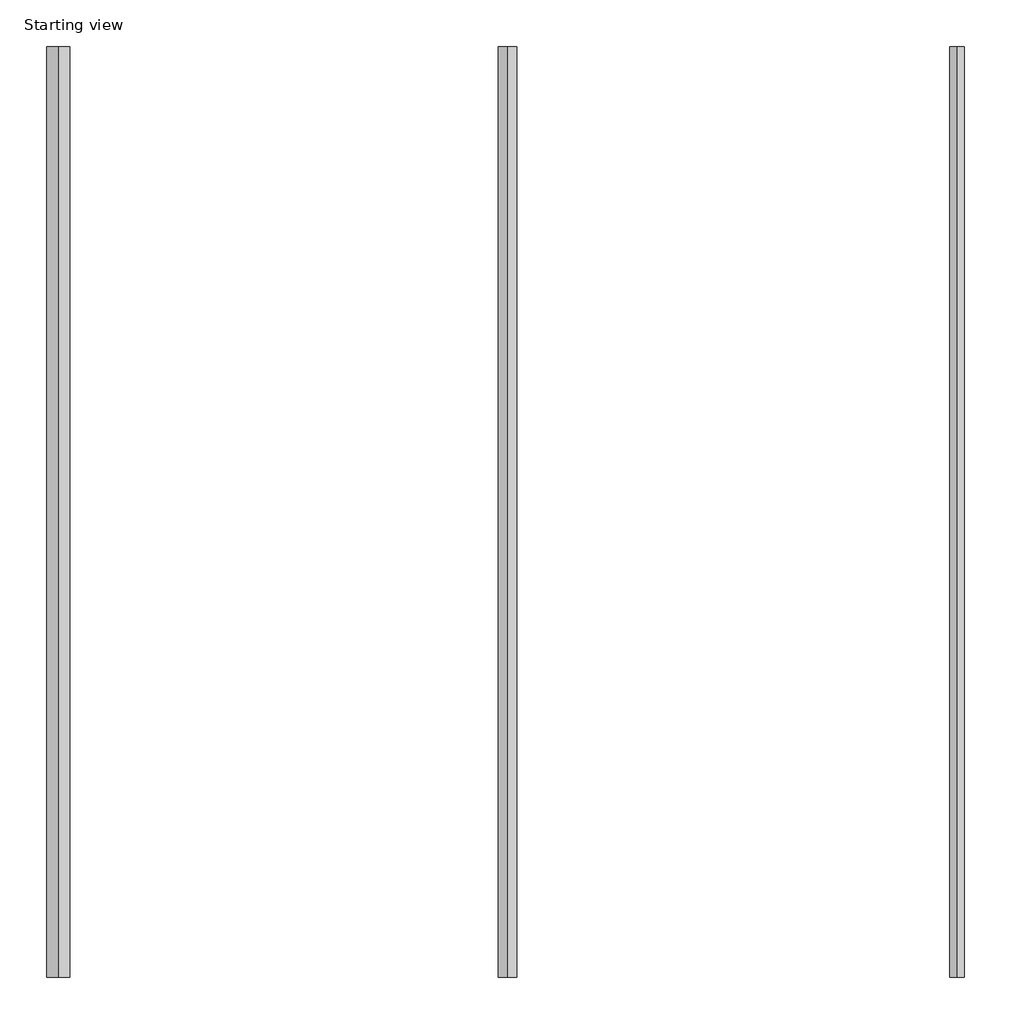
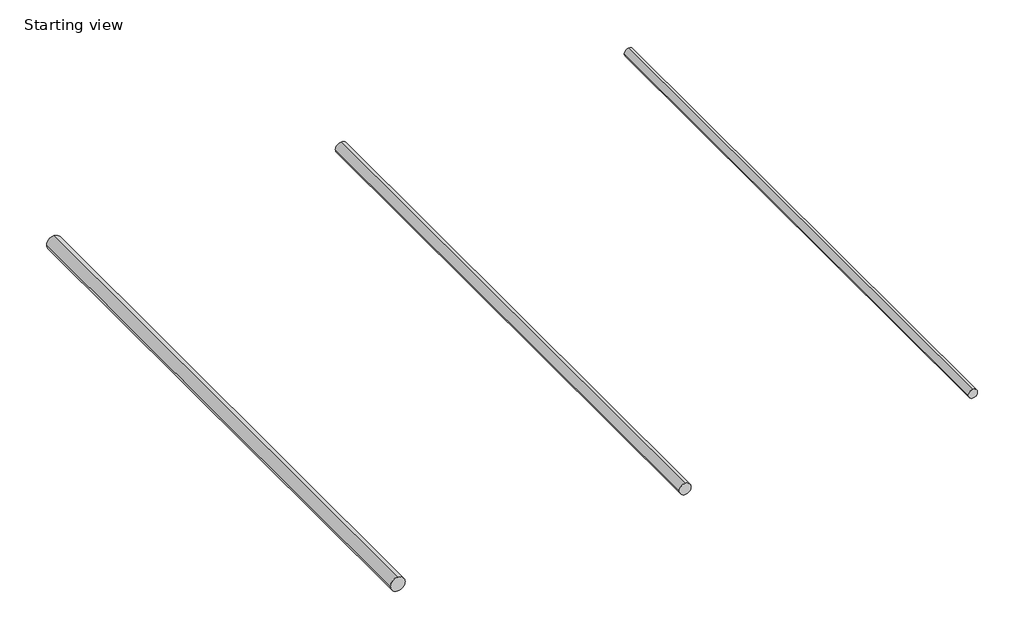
# One storey, incomplete: 3 pipe segments.
"""IFC4 building model written with IfcOpenShell, lengths in millimetres."""

import ifcopenshell
import ifcopenshell.guid

model = None  # the IFC model being written
_history = None  # IfcOwnerHistory: only IFC2X3 demands one
_inside = {}  # id of a spatial element -> (the spatial element, [elements in it])
_under = {}  # id of a project, library or spatial element -> (it, [spatial elements below it])
_declared = {}  # id of a project -> (the project, [libraries it declares])
_typed = {}  # id of a type object -> (the type object, [elements of that type])
_made_of = {}  # id of a material, layer set ... -> (it, [elements and type objects made of it])


def new_model(schema):
    """Start an empty IFC model of exactly this schema.

    Asked for "IFC4X3", IfcOpenShell would pick the latest addendum, in which some entities
    have other attributes; the version numbers below select the first issue.
    IFC2X3 requires an IfcOwnerHistory on every rooted entity: one is made here for all.
    """
    global model, _history
    if schema == "IFC4X3":
        model = ifcopenshell.file(schema_version=(4, 3, 0, 0))
    else:
        model = ifcopenshell.file(schema=schema)
    _inside.clear()
    _under.clear()
    _declared.clear()
    _typed.clear()
    _made_of.clear()
    _history = None
    if model.schema == "IFC2X3":
        org = make("IfcOrganization", Name="unknown")
        user = make(
            "IfcPersonAndOrganization",
            ThePerson=make("IfcPerson", FamilyName="unknown"),
            TheOrganization=org,
        )
        app = make(
            "IfcApplication",
            ApplicationDeveloper=org,
            Version="unknown",
            ApplicationFullName="unknown",
            ApplicationIdentifier="unknown",
        )
        _history = make(
            "IfcOwnerHistory",
            OwningUser=user,
            OwningApplication=app,
            ChangeAction="ADDED",
            CreationDate=0,
        )
    return model


def make(cls, **values):
    """One entity of the class cls with the attributes given. An attribute that is None is left unset."""
    return model.create_entity(
        cls, **{name: value for name, value in values.items() if value is not None}
    )


def rooted(cls, **values):
    """An entity with a GlobalId (a new one), such as an element, a storey or a relation."""
    return make(cls, GlobalId=ifcopenshell.guid.new(), OwnerHistory=_history, **values)


def si_unit(unit_type, name, prefix=None):
    """IfcSIUnit, for example si_unit("LENGTHUNIT", "METRE", prefix="MILLI")."""
    return make("IfcSIUnit", UnitType=unit_type, Prefix=prefix, Name=name)


def assignment(units):
    """IfcUnitAssignment: the units of a project."""
    return None if units is None else make("IfcUnitAssignment", Units=units)


def point(xyz):
    """IfcCartesianPoint."""
    return None if xyz is None else make("IfcCartesianPoint", Coordinates=xyz)


def direction(xyz):
    """IfcDirection."""
    return None if xyz is None else make("IfcDirection", DirectionRatios=xyz)


def frame(location, z_axis=None, x_axis=None):
    """IfcAxis2Placement3D, a coordinate frame: its origin and axes. An axis left out is left unset."""
    return make(
        "IfcAxis2Placement3D",
        Location=point(location),
        Axis=direction(z_axis),
        RefDirection=direction(x_axis),
    )


def frame_2d(location, x_axis=None):
    """IfcAxis2Placement2D, a coordinate frame in the plane: its origin and x axis."""
    return make(
        "IfcAxis2Placement2D", Location=point(location), RefDirection=direction(x_axis)
    )


def origin():
    """The frame at (0, 0, 0) with its axes left unset."""
    return frame((0.0, 0.0, 0.0))


def place(relative_to, where):
    """IfcLocalPlacement: puts the frame where relative to a parent placement (None: the world)."""
    return make(
        "IfcLocalPlacement", PlacementRelTo=relative_to, RelativePlacement=where
    )


def context(
    kind, dimensions, precision=None, world=None, true_north=None, identifier=None
):
    """IfcGeometricRepresentationContext, for example the 3D "Model" context."""
    return make(
        "IfcGeometricRepresentationContext",
        ContextIdentifier=identifier,
        ContextType=kind,
        CoordinateSpaceDimension=dimensions,
        Precision=precision,
        WorldCoordinateSystem=world,
        TrueNorth=true_north,
    )


def project(units=None, contexts=None):
    """IfcProject with its units and contexts."""
    return rooted(
        "IfcProject",
        Name="project",
        RepresentationContexts=contexts,
        UnitsInContext=assignment(units),
    )


def spatial(cls, under=None, at=None, **own):
    """A site, building, storey or space (cls), placed at a placement, below another one or the project."""
    s = rooted(cls, ObjectPlacement=at, **own)
    if under is not None:
        _under.setdefault(under.id(), (under, []))[1].append(s)
    return s


def circle_curve(where, radius):
    """IfcCircle in the frame where."""
    return make("IfcCircle", Position=where, Radius=radius)


def trimmed(basis, trim1, trim2, sense, master):
    """IfcTrimmedCurve: the piece of a basis curve between two trims."""
    return make(
        "IfcTrimmedCurve",
        BasisCurve=basis,
        Trim1=trim1,
        Trim2=trim2,
        SenseAgreement=sense,
        MasterRepresentation=master,
    )


def segment(curve, same_sense, transition):
    """IfcCompositeCurveSegment."""
    return make(
        "IfcCompositeCurveSegment",
        Transition=transition,
        SameSense=same_sense,
        ParentCurve=curve,
    )


def composite_curve(segments, self_intersect=None):
    """IfcCompositeCurve: segments joined end to end."""
    return make("IfcCompositeCurve", Segments=segments, SelfIntersect=self_intersect)


def outline(outer, holes=None, kind="AREA"):
    """IfcArbitraryClosedProfileDef: a profile drawn as a closed curve; with holes, ...WithVoids."""
    if holes is None:
        return make("IfcArbitraryClosedProfileDef", ProfileType=kind, OuterCurve=outer)
    return make(
        "IfcArbitraryProfileDefWithVoids",
        ProfileType=kind,
        OuterCurve=outer,
        InnerCurves=holes,
    )


def extrude(swept, where, along, depth):
    """IfcExtrudedAreaSolid: the profile swept, set in the frame where, extruded along a direction by depth."""
    return make(
        "IfcExtrudedAreaSolid",
        SweptArea=swept,
        Position=where,
        ExtrudedDirection=direction(along),
        Depth=depth,
    )


def shape(context_of_items, identifier, shape_type, items):
    """IfcShapeRepresentation: the items that make up one representation, for example the "Body"."""
    return make(
        "IfcShapeRepresentation",
        ContextOfItems=context_of_items,
        RepresentationIdentifier=identifier,
        RepresentationType=shape_type,
        Items=items,
    )


def made_of(thing, what):
    """Note that an element or type object is made of a material, layer set ...; save() writes the relation."""
    if what is not None:
        _made_of.setdefault(what.id(), (what, []))[1].append(thing)
    return thing


def element(
    cls,
    number,
    at=None,
    inside=None,
    cuts=None,
    type_object=None,
    material=None,
    context=None,
    identifier="Body",
    shape_type=None,
    held_by="IfcProductDefinitionShape",
    body=None,
    shapes=None,
    **own,
):
    """One element of the class cls, such as IfcWall. Its Tag is "e" and its number.

    at: its placement. inside: the storey or other place that contains it. cuts: it is an
    opening in that element (IfcRelVoidsElement). A single representation is given by context,
    identifier, shape_type and body (its items); several are given by shapes. held_by: the class
    of the entity that holds the representations. save() writes the other relations.
    """
    e = rooted(cls, Tag="e%d" % number, ObjectPlacement=at, **own)
    if body is not None:
        shapes = [shape(context, identifier, shape_type, body)]
    if shapes is not None:
        e.Representation = make(held_by, Representations=shapes)
    if inside is not None:
        _inside.setdefault(inside.id(), (inside, []))[1].append(e)
    if cuts is not None:
        rooted(
            "IfcRelVoidsElement", RelatingBuildingElement=cuts, RelatedOpeningElement=e
        )
    if type_object is not None:
        _typed.setdefault(type_object.id(), (type_object, []))[1].append(e)
    return made_of(e, material)


def aggregate(whole, parts):
    """IfcRelAggregates: a whole, such as a stair, and the parts it consists of."""
    return rooted("IfcRelAggregates", RelatingObject=whole, RelatedObjects=parts)


def save(model, path):
    """Write the relations noted so far, then the file.

    IfcRelAggregates (storeys below a building ...), IfcRelContainedInSpatialStructure (elements
    in a storey), IfcRelDefinesByType, IfcRelAssociatesMaterial and IfcRelDeclares: one each for
    every whole, place, type object, material and project.
    """
    for whole, parts in _under.values():
        aggregate(whole, parts)
    for where, things in _inside.values():
        rooted(
            "IfcRelContainedInSpatialStructure",
            RelatedElements=things,
            RelatingStructure=where,
        )
    for kind, things in _typed.values():
        rooted("IfcRelDefinesByType", RelatedObjects=things, RelatingType=kind)
    for what, things in _made_of.values():
        rooted("IfcRelAssociatesMaterial", RelatedObjects=things, RelatingMaterial=what)
    for by, libraries in _declared.values():
        rooted("IfcRelDeclares", RelatingContext=by, RelatedDefinitions=libraries)
    model.write(path)


model = new_model("IFC4")

# Units and contexts
model_context = context("Model", 3, world=origin())
ifc_project = project(units=[si_unit("LENGTHUNIT", "METRE", prefix="MILLI")], contexts=[model_context])

# Site, building, storey
site = spatial("IfcSite", under=ifc_project)
building = spatial("IfcBuilding", under=site)
storey = spatial("IfcBuildingStorey", under=building, Name="Starting view", Elevation=0.0)

# Pipe segments
placement = place(None, origin())
element("IfcPipeSegment", 1, ObjectType="Plastigama Acuaflex 1.00MPa", at=placement, inside=storey, context=model_context, shape_type="SweptSolid", body=[
    extrude(outline(composite_curve([segment(trimmed(circle_curve(frame_2d((100.0, -18875.8888864)), 20.0), [point((100.0, -18895.8888864))], [point((80.0, -18875.8888864))], False, "CARTESIAN"), True, "CONTINUOUS"), segment(trimmed(circle_curve(frame_2d((100.0, -18875.8888864)), 20.0), [point((80.0, -18875.8888864))], [point((100.0, -18855.8888864))], False, "CARTESIAN"), True, "CONTINUOUS"), segment(trimmed(circle_curve(frame_2d((100.0, -18875.8888864)), 20.0), [point((100.0, -18855.8888864))], [point((120.0, -18875.8888864))], False, "CARTESIAN"), True, "CONTINUOUS"), segment(trimmed(circle_curve(frame_2d((100.0, -18875.8888864)), 20.0), [point((120.0, -18875.8888864))], [point((100.0, -18895.8888864))], False, "CARTESIAN"), True, "CONTINUOUS")], self_intersect=False)), frame((0.0, 14971.7681375, 0.0), z_axis=(0.0, 1.0, 0.0), x_axis=(0.0, 0.0, 1.0)), (0.0, 0.0, 1.0), 1620.0),
])
element("IfcPipeSegment", 2, ObjectType="Plastigama Acuaflex 1.25MPa", at=placement, inside=storey, context=model_context, shape_type="SweptSolid", body=[
    extrude(outline(composite_curve([segment(trimmed(circle_curve(frame_2d((100.0, -18094.026983)), 16.0), [point((100.0, -18110.026983))], [point((84.0, -18094.026983))], False, "CARTESIAN"), True, "CONTINUOUS"), segment(trimmed(circle_curve(frame_2d((100.0, -18094.026983)), 16.0), [point((84.0, -18094.026983))], [point((100.0, -18078.026983))], False, "CARTESIAN"), True, "CONTINUOUS"), segment(trimmed(circle_curve(frame_2d((100.0, -18094.026983)), 16.0), [point((100.0, -18078.026983))], [point((116.0, -18094.026983))], False, "CARTESIAN"), True, "CONTINUOUS"), segment(trimmed(circle_curve(frame_2d((100.0, -18094.026983)), 16.0), [point((116.0, -18094.026983))], [point((100.0, -18110.026983))], False, "CARTESIAN"), True, "CONTINUOUS")], self_intersect=False)), frame((0.0, 14971.7681375, 0.0), z_axis=(0.0, 1.0, 0.0), x_axis=(0.0, 0.0, 1.0)), (0.0, 0.0, 1.0), 1620.0),
])
element("IfcPipeSegment", 3, ObjectType="Plastigama Acuaflex 1.60MPa", at=placement, inside=storey, context=model_context, shape_type="SweptSolid", body=[
    extrude(outline(composite_curve([segment(trimmed(circle_curve(frame_2d((100.0, -17311.598264)), 12.5), [point((100.0, -17324.098264))], [point((87.5, -17311.598264))], False, "CARTESIAN"), True, "CONTINUOUS"), segment(trimmed(circle_curve(frame_2d((100.0, -17311.598264)), 12.5), [point((87.5, -17311.598264))], [point((100.0, -17299.098264))], False, "CARTESIAN"), True, "CONTINUOUS"), segment(trimmed(circle_curve(frame_2d((100.0, -17311.598264)), 12.5), [point((100.0, -17299.098264))], [point((112.5, -17311.598264))], False, "CARTESIAN"), True, "CONTINUOUS"), segment(trimmed(circle_curve(frame_2d((100.0, -17311.598264)), 12.5), [point((112.5, -17311.598264))], [point((100.0, -17324.098264))], False, "CARTESIAN"), True, "CONTINUOUS")], self_intersect=False)), frame((0.0, 14971.7681375, 0.0), z_axis=(0.0, 1.0, 0.0), x_axis=(0.0, 0.0, 1.0)), (0.0, 0.0, 1.0), 1620.0),
])

save(model, "model.ifc")
